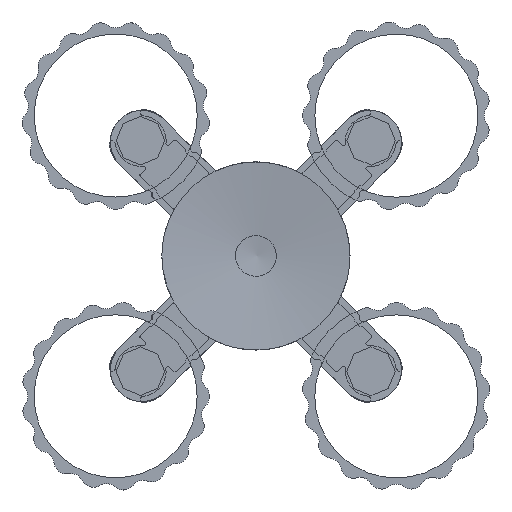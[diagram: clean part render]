
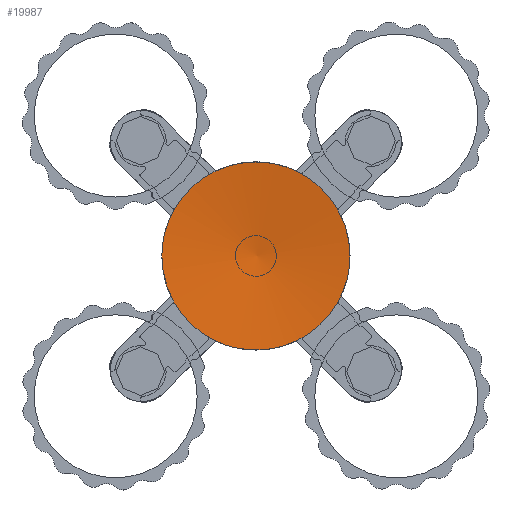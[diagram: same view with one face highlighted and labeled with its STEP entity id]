
A CAD part, front view. The second image highlights one B-rep face of the part: STEP entity #19987.
In plain terms, the highlighted free-form (B-spline) face has degree [2, 2] with [3, 3] control points.
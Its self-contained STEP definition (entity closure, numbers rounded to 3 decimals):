
#825 = CARTESIAN_POINT ( 'NONE',  ( 2555.005, 117.5, -5954.464 ) ) ;
#3197 = CARTESIAN_POINT ( 'NONE',  ( 2682.526, 147.716, -5924.453 ) ) ;
#3397 = CARTESIAN_POINT ( 'NONE',  ( 2610.915, 165.48, -5954.468 ) ) ;
#3583 = CARTESIAN_POINT ( 'NONE',  ( 2555.005, 112.854, -5977.437 ) ) ;
#5277 = CARTESIAN_POINT ( 'NONE',  ( 2622.526, 147.716, -5924.453 ) ) ;
#5311 = ORIENTED_EDGE ( 'NONE', *, *, #34003, .T. ) ;
#6731 = CARTESIAN_POINT ( 'NONE',  ( 2682.526, 147.716, -5984.453 ) ) ;
#8757 = CARTESIAN_POINT ( 'NONE',  ( 2652.526, 147.716, -5924.453 ) ) ;
#8770 = CARTESIAN_POINT ( 'NONE',  ( 2555.005, 112.858, -5931.489 ) ) ;
#9142 = FACE_OUTER_BOUND ( 'NONE', #22135, .T. ) ;
#9508 = CARTESIAN_POINT ( 'NONE',  ( 2622.526, 147.716, -5954.453 ) ) ;
#10384 = CARTESIAN_POINT ( 'NONE',  ( 2622.526, 147.716, -5954.453 ) ) ;
#11372 = CARTESIAN_POINT ( 'NONE',  ( 2682.526, 150.72, -5954.467 ) ) ;
#13457 = CARTESIAN_POINT ( 'NONE',  ( 2682.526, 147.716, -5954.453 ) ) ;
#13846 = VERTEX_POINT ( 'NONE', #13457 ) ;
#14143 = CARTESIAN_POINT ( 'NONE',  ( 2682.526, 144.774, -5925.04 ) ) ;
#14499 = CARTESIAN_POINT ( 'NONE',  ( 2622.526, 147.716, -5954.453 ) ) ;
#15213 = EDGE_CURVE ( 'NONE', #30623, #13846, #30833, .T. ) ;
#15427 = CARTESIAN_POINT ( 'NONE',  ( 2652.526, 147.716, -5984.453 ) ) ;
#15611 = CARTESIAN_POINT ( 'NONE',  ( 2682.526, 147.716, -5954.453 ) ) ;
#15643 = ORIENTED_EDGE ( 'NONE', *, *, #15213, .T. ) ;
#16926 = CARTESIAN_POINT ( 'NONE',  ( 2610.915, 158.949, -5986.76 ) ) ;
#19880 = CARTESIAN_POINT ( 'NONE',  ( 2682.526, 147.716, -5954.453 ) ) ;
#19987 = ADVANCED_FACE ( 'NONE', ( #9142 ), #34172, .T. ) ;
#22135 = EDGE_LOOP ( 'NONE', ( #5311, #15643 ) ) ;
#23045 = CARTESIAN_POINT ( 'NONE',  ( 2682.526, 144.769, -5983.892 ) ) ;
#23414 = CARTESIAN_POINT ( 'NONE',  ( 2610.915, 158.954, -5922.175 ) ) ;
#27788 =( BOUNDED_CURVE ( )  B_SPLINE_CURVE ( 2, ( #19880, #3197, #8757, #5277, #14499 ),
 .UNSPECIFIED., .F., .F. ) 
 B_SPLINE_CURVE_WITH_KNOTS ( ( 3, 2, 3 ),
 ( 1.571, 3.142, 4.712 ),
 .UNSPECIFIED. ) 
 CURVE ( )  GEOMETRIC_REPRESENTATION_ITEM ( )  RATIONAL_B_SPLINE_CURVE ( ( 1., 0.707, 1., 0.707, 1. ) ) 
 REPRESENTATION_ITEM ( '' )  );
#30623 = VERTEX_POINT ( 'NONE', #10384 ) ;
#30833 =( BOUNDED_CURVE ( )  B_SPLINE_CURVE ( 2, ( #9508, #32086, #15427, #6731, #15611 ),
 .UNSPECIFIED., .F., .F. ) 
 B_SPLINE_CURVE_WITH_KNOTS ( ( 3, 2, 3 ),
 ( 4.712, 6.283, 7.854 ),
 .UNSPECIFIED. ) 
 CURVE ( )  GEOMETRIC_REPRESENTATION_ITEM ( )  RATIONAL_B_SPLINE_CURVE ( ( 1., 0.707, 1., 0.707, 1. ) ) 
 REPRESENTATION_ITEM ( '' )  );
#32086 = CARTESIAN_POINT ( 'NONE',  ( 2622.526, 147.716, -5984.453 ) ) ;
#34003 = EDGE_CURVE ( 'NONE', #13846, #30623, #27788, .T. ) ;
#34172 =( BOUNDED_SURFACE ( )  B_SPLINE_SURFACE ( 2, 2, ( 
 ( #14143, #11372, #23045 ),
 ( #23414, #3397, #16926 ),
 ( #8770, #825, #3583 ) ),
 .UNSPECIFIED., .F., .F., .F. ) 
 B_SPLINE_SURFACE_WITH_KNOTS ( ( 3, 3 ),
 ( 3, 3 ),
 ( -0.699, 0.199 ),
 ( -1.77, -1.371 ),
 .UNSPECIFIED. ) 
 GEOMETRIC_REPRESENTATION_ITEM ( )  RATIONAL_B_SPLINE_SURFACE ( (
 ( 1., 0.98, 1.),
 ( 0.901, 0.883, 0.901),
 ( 1., 0.98, 1.) ) ) 
 REPRESENTATION_ITEM ( '' )  SURFACE ( )  );
